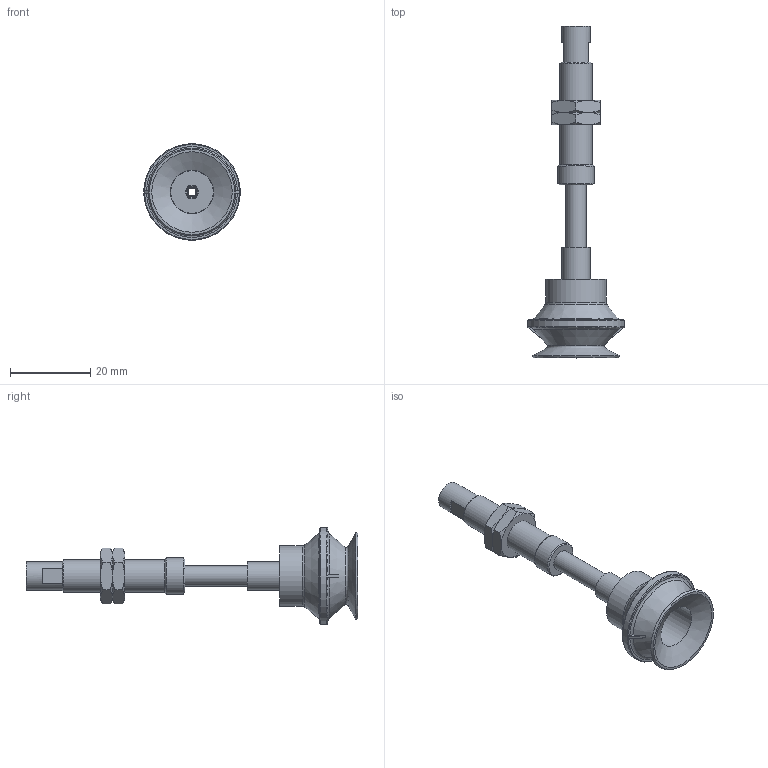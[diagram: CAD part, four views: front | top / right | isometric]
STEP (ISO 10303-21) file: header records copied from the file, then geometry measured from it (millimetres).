
FILE_DESCRIPTION(('STEP AP203'),'1');
FILE_NAME('-SPE.stp','2025-04-02T03:10:11',(' '),(' '),'Spatial InterOp 3D',' ',' ');
FILE_SCHEMA(('CONFIG_CONTROL_DESIGN'));
Length unit declared in the file: millimetre
Products named in the file (8): BNABPBTS-20-15-※-SPE; NUT; BODY; STOPPER; ZIG; BPBG-20-※; TN-PF-20-M5
Assembly tree (7 placements, depth 2):
  BNABPBTS-20-15-※-SPE
    NUT
    NUT
    BODY
    STOPPER
    ZIG
    BPBG-20-※
    TN-PF-20-M5
Bounding box: 24 x 82.5 x 24 mm (x, y, z)
Volume: 6081.5 mm3; surface area: 6754 mm2
Topology: 7 solids, 7 shells, 141 faces, 298 edges, 181 vertices
Faces by surface type: plane 58, cone 48, cylinder 25, torus 10
Full cylindrical faces by diameter (mm): 2 x1, 2.5 x1, 3 x1, 3.4 x1, 3.5 x1, 4 x3, 4.2 x2, 4.6 x1, 5 x3, 5.2 x1, 7 x2, 7.25 x2, 8 x1, 9 x1, 10.8 x1, 11 x1, 15 x1, 24 x1
Entity records: 3814 total; most frequent: CARTESIAN_POINT 699, DIRECTION 598, ORIENTED_EDGE 452, AXIS2_PLACEMENT_3D 271, EDGE_CURVE 226, EDGE_LOOP 220, FACE_OUTER_BOUND 174, VERTEX_POINT 164
